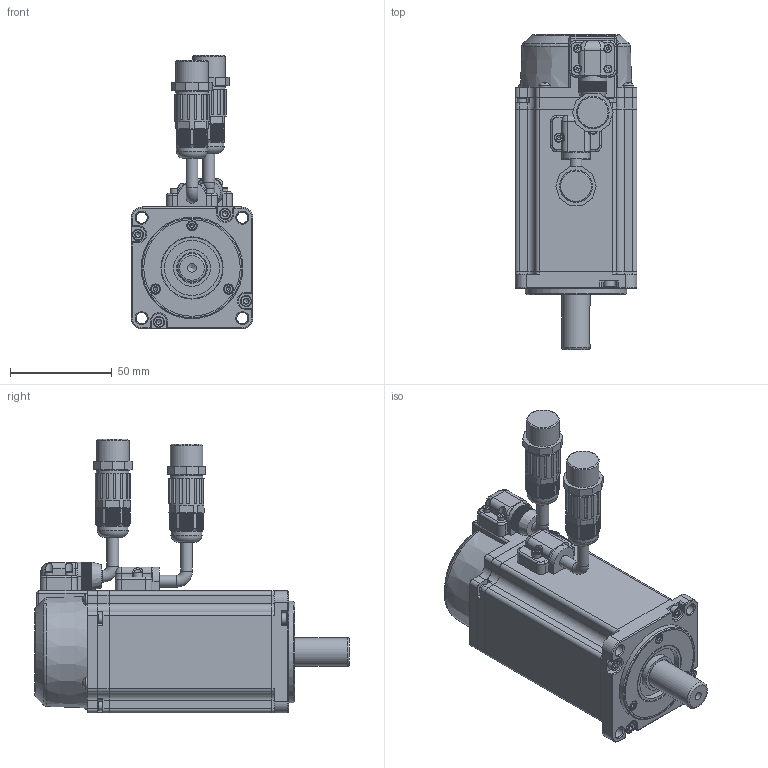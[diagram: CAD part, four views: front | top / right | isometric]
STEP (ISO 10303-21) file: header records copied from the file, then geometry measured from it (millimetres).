
FILE_DESCRIPTION(/* description */ (''),/* implementation_level */ '2;1');
FILE_NAME(/* name */ '60SY-M01930S1-5.stp',/* time_stamp */ '2024-01-04T10:42:02+08:00',/* author */ (''),/* organization */ (''),/* preprocessor_version */ 'ST-DEVELOPER v18.1',/* originating_system */ 'SIEMENS PLM Software NX 2000',/* authorisation */ '');
FILE_SCHEMA (('AUTOMOTIVE_DESIGN { 1 0 10303 214 3 1 1 1 }'));
Products named in the file (1): 60S1电机外形图(00630)
Bounding box: 60 x 155 x 134.76 mm (x, y, z)
Volume: 363079.1 mm3; surface area: 85979.6 mm2
Topology: 34 solids, 37 shells, 2707 faces, 7109 edges, 4520 vertices
Faces by surface type: plane 1736, cylinder 578, sphere 140, cone 137, torus 66, bspline 50
Full cylindrical faces by diameter (mm): 1.5 x4, 2 x8, 2.05 x3, 2.1 x4, 2.38 x9, 2.5 x6, 2.6 x4, 2.874 x4, 2.9 x3, 3.4 x8, 3.5 x4, 3.8 x4, 4.2 x1, 4.5 x9, 5 x3, 5.5 x8, 5.8 x5, 13 x2, 14 x1, 14.8 x1, 15 x1, 15.3 x2, 15.6 x2, 16 x2, 16.1 x2, 17.3 x2, 18 x1, 22.5 x1, 27 x1, 30 x2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
Entity records: 84071 total; most frequent: CARTESIAN_POINT 19982, ORIENTED_EDGE 13638, DIRECTION 12425, EDGE_CURVE 6819, VERTEX_POINT 4458, AXIS2_PLACEMENT_3D 4314, LINE 3797, VECTOR 3797
